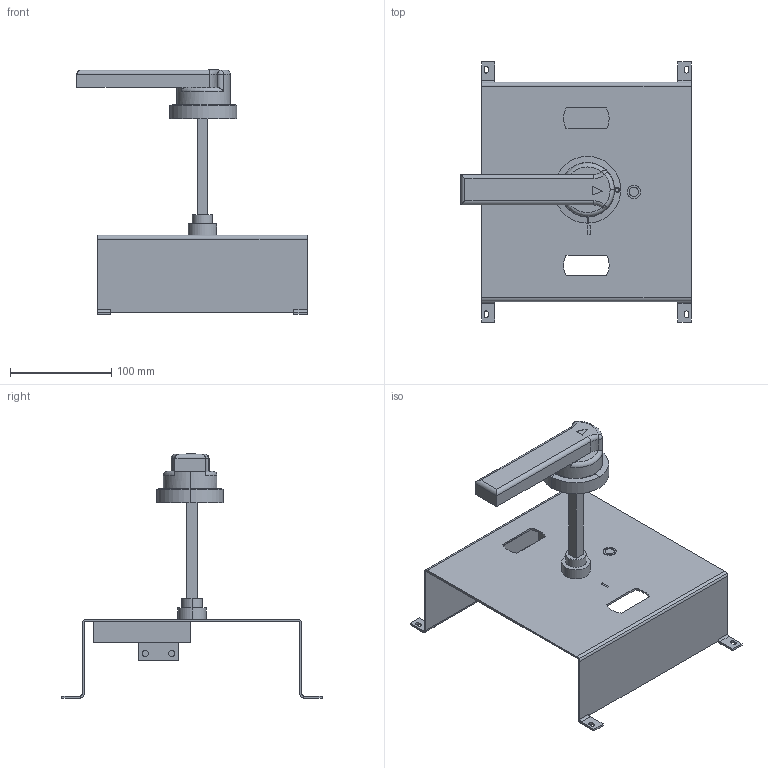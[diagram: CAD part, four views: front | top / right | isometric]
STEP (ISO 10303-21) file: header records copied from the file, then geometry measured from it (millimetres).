
FILE_DESCRIPTION (( 'STEP AP203' ), '1' );
FILE_NAME ('Ðó÷íîé ïîâîðîòíûé ïðèâîä ê ÂÀ-99Ì 800À.STEP', '2018-06-08T13:26:51', ( '' ), ( '' ), 'SwSTEP 2.0', 'SolidWorks 2017', '' );
FILE_SCHEMA (( 'CONFIG_CONTROL_DESIGN' ));
Length unit declared in the file: millimetre
Products named in the file (1): Ðó÷íîé ïîâîðîòíûé ïðèâîä ê ÂÀ-99Ì 800À
Bounding box: 227.5 x 257 x 241.2 mm (x, y, z)
Volume: 371506.4 mm3; surface area: 201985.4 mm2
Topology: 1 solids, 1 shells, 167 faces, 434 edges, 283 vertices
Faces by surface type: plane 97, cylinder 53, torus 6, cone 5, bspline 4, sphere 2
Entity records: 5430 total; most frequent: CARTESIAN_POINT 1193, ORIENTED_EDGE 860, DIRECTION 853, EDGE_CURVE 430, AXIS2_PLACEMENT_3D 285, VECTOR 283, LINE 283, VERTEX_POINT 281
